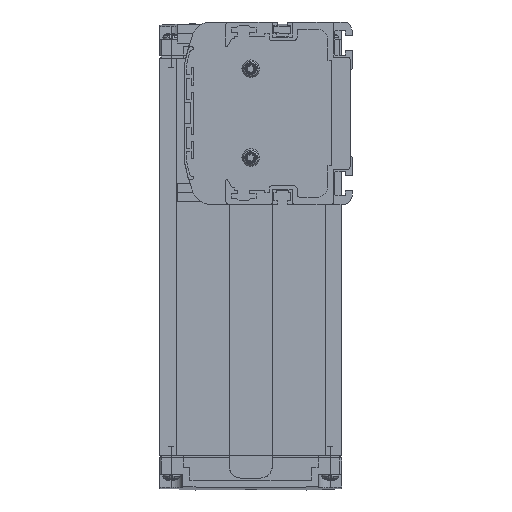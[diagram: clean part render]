
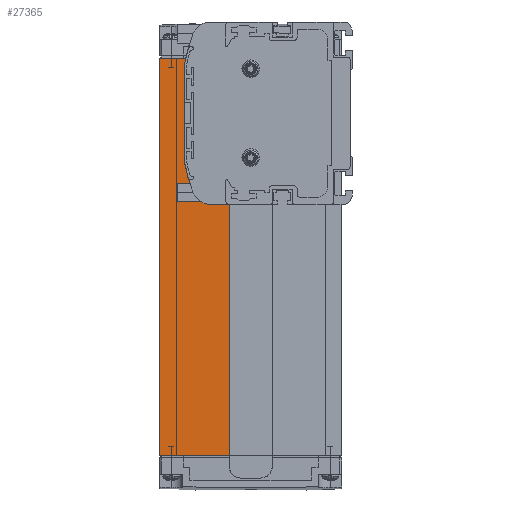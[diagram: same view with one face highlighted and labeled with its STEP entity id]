
A CAD part, left-side view. The second image highlights one B-rep face of the part: STEP entity #27365.
In plain terms, the highlighted planar face has unit normal (-1, 0, 0).
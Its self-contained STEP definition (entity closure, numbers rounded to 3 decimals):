
#4115=DIRECTION('',(0.,-1.,0.));
#4116=VECTOR('',#4115,8.155);
#4117=CARTESIAN_POINT('',(3.,60.755,-39.));
#4118=LINE('',#4117,#4116);
#4153=DIRECTION('',(0.,-1.,0.));
#4154=VECTOR('',#4153,29.9);
#4155=CARTESIAN_POINT('',(3.,82.5,-146.5));
#4156=LINE('',#4155,#4154);
#4157=DIRECTION('',(0.,1.,0.));
#4158=VECTOR('',#4157,11.203);
#4159=CARTESIAN_POINT('',(3.,71.297,23.5));
#4160=LINE('',#4159,#4158);
#4177=DIRECTION('',(0.,0.,1.));
#4178=VECTOR('',#4177,107.5);
#4179=CARTESIAN_POINT('',(3.,52.6,-146.5));
#4180=LINE('',#4179,#4178);
#4181=DIRECTION('',(0.,1.,0.));
#4182=VECTOR('',#4181,0.209);
#4183=CARTESIAN_POINT('',(3.,70.291,-27.5));
#4184=LINE('',#4183,#4182);
#4205=DIRECTION('',(0.,0.,1.));
#4206=VECTOR('',#4205,0.762);
#4207=CARTESIAN_POINT('',(3.,70.5,-27.5));
#4208=LINE('',#4207,#4206);
#11293=CARTESIAN_POINT('',(3.,-6.765,6.));
#11294=DIRECTION('',(1.,0.,0.));
#11295=DIRECTION('',(0.,0.984,0.177));
#11296=AXIS2_PLACEMENT_3D('',#11293,#11294,#11295);
#11298=CARTESIAN_POINT('',(3.,70.,19.823));
#11299=DIRECTION('',(1.,0.,0.));
#11300=DIRECTION('',(0.,1.,0.));
#11301=AXIS2_PLACEMENT_3D('',#11298,#11299,#11300);
#11307=DIRECTION('',(0.,0.,1.));
#11308=VECTOR('',#11307,39.645);
#11309=CARTESIAN_POINT('',(3.,72.,-19.823));
#11310=LINE('',#11309,#11308);
#11315=CARTESIAN_POINT('',(3.,70.,-19.823));
#11316=DIRECTION('',(-1.,0.,0.));
#11317=DIRECTION('',(0.,1.,0.));
#11318=AXIS2_PLACEMENT_3D('',#11315,#11316,#11317);
#11328=CARTESIAN_POINT('',(3.,-6.765,-6.));
#11329=DIRECTION('',(1.,0.,0.));
#11330=DIRECTION('',(0.,0.938,-0.347));
#11331=AXIS2_PLACEMENT_3D('',#11328,#11329,#11330);
#11333=CARTESIAN_POINT('',(3.,-6.765,-6.));
#11334=DIRECTION('',(1.,0.,0.));
#11335=DIRECTION('',(0.,0.966,-0.259));
#11336=AXIS2_PLACEMENT_3D('',#11333,#11334,#11335);
#11342=CARTESIAN_POINT('',(3.,60.755,-31.));
#11343=DIRECTION('',(1.,0.,0.));
#11344=DIRECTION('',(0.,0.,-1.));
#11345=AXIS2_PLACEMENT_3D('',#11342,#11343,#11344);
#13071=DIRECTION('',(0.,0.,1.));
#13072=VECTOR('',#13071,170.);
#13073=CARTESIAN_POINT('',(3.,82.5,-146.5));
#13074=LINE('',#13073,#13072);
#17617=CARTESIAN_POINT('',(3.,82.5,23.5));
#17618=VERTEX_POINT('',#17617);
#17663=CARTESIAN_POINT('',(3.,82.5,-146.5));
#17664=VERTEX_POINT('',#17663);
#17665=CARTESIAN_POINT('',(3.,52.6,-146.5));
#17666=VERTEX_POINT('',#17665);
#17695=CARTESIAN_POINT('',(3.,70.5,-27.5));
#17697=VERTEX_POINT('',#17695);
#21690=CARTESIAN_POINT('',(3.,60.755,-39.));
#21691=CARTESIAN_POINT('',(3.,52.6,-39.));
#21692=VERTEX_POINT('',#21690);
#21693=VERTEX_POINT('',#21691);
#21694=CARTESIAN_POINT('',(3.,71.297,23.5));
#21696=VERTEX_POINT('',#21694);
#21704=CARTESIAN_POINT('',(3.,70.5,-26.738));
#21705=VERTEX_POINT('',#21704);
#21708=CARTESIAN_POINT('',(3.,70.291,-27.5));
#21710=VERTEX_POINT('',#21708);
#21720=CARTESIAN_POINT('',(3.,72.,19.823));
#21721=CARTESIAN_POINT('',(3.,71.968,20.177));
#21722=VERTEX_POINT('',#21720);
#21723=VERTEX_POINT('',#21721);
#21736=CARTESIAN_POINT('',(3.,68.257,-33.778));
#21737=VERTEX_POINT('',#21736);
#21738=CARTESIAN_POINT('',(3.,71.968,-20.177));
#21739=VERTEX_POINT('',#21738);
#21740=CARTESIAN_POINT('',(3.,72.,-19.823));
#21741=VERTEX_POINT('',#21740);
#27332=CARTESIAN_POINT('',(3.,67.55,-61.5));
#27333=DIRECTION('',(1.,0.,0.));
#27334=DIRECTION('',(0.,1.,0.));
#27335=AXIS2_PLACEMENT_3D('',#27332,#27333,#27334);
#27336=PLANE('',#27335);
#27337=ORIENTED_EDGE('',*,*,#27300,.T.);
#27339=ORIENTED_EDGE('',*,*,#27338,.F.);
#27340=ORIENTED_EDGE('',*,*,#22182,.F.);
#27342=ORIENTED_EDGE('',*,*,#27341,.T.);
#27344=ORIENTED_EDGE('',*,*,#27343,.F.);
#27346=ORIENTED_EDGE('',*,*,#27345,.F.);
#27348=ORIENTED_EDGE('',*,*,#27347,.F.);
#27350=ORIENTED_EDGE('',*,*,#27349,.F.);
#27352=ORIENTED_EDGE('',*,*,#27351,.T.);
#27354=ORIENTED_EDGE('',*,*,#27353,.F.);
#27356=ORIENTED_EDGE('',*,*,#27355,.F.);
#27358=ORIENTED_EDGE('',*,*,#27357,.F.);
#27360=ORIENTED_EDGE('',*,*,#27359,.F.);
#27362=ORIENTED_EDGE('',*,*,#27361,.F.);
#27363=EDGE_LOOP('',(#27337,#27339,#27340,#27342,#27344,#27346,#27348,#27350,
#27352,#27354,#27356,#27358,#27360,#27362));
#27364=FACE_OUTER_BOUND('',#27363,.F.);
#27365=ADVANCED_FACE('',(#27364),#27336,.F.);
#11297=CIRCLE('',#11296,80.);
#11302=CIRCLE('',#11301,2.);
#11319=CIRCLE('',#11318,2.);
#11332=CIRCLE('',#11331,80.);
#11337=CIRCLE('',#11336,80.);
#11346=CIRCLE('',#11345,8.);
#22182=EDGE_CURVE('',#17664,#17666,#4156,.T.);
#27300=EDGE_CURVE('',#21692,#21693,#4118,.T.);
#27338=EDGE_CURVE('',#17666,#21693,#4180,.T.);
#27341=EDGE_CURVE('',#17664,#17618,#13074,.T.);
#27343=EDGE_CURVE('',#21696,#17618,#4160,.T.);
#27345=EDGE_CURVE('',#21723,#21696,#11297,.T.);
#27347=EDGE_CURVE('',#21722,#21723,#11302,.T.);
#27349=EDGE_CURVE('',#21741,#21722,#11310,.T.);
#27351=EDGE_CURVE('',#21741,#21739,#11319,.T.);
#27353=EDGE_CURVE('',#21705,#21739,#11337,.T.);
#27355=EDGE_CURVE('',#17697,#21705,#4208,.T.);
#27357=EDGE_CURVE('',#21710,#17697,#4184,.T.);
#27359=EDGE_CURVE('',#21737,#21710,#11332,.T.);
#27361=EDGE_CURVE('',#21692,#21737,#11346,.T.);
